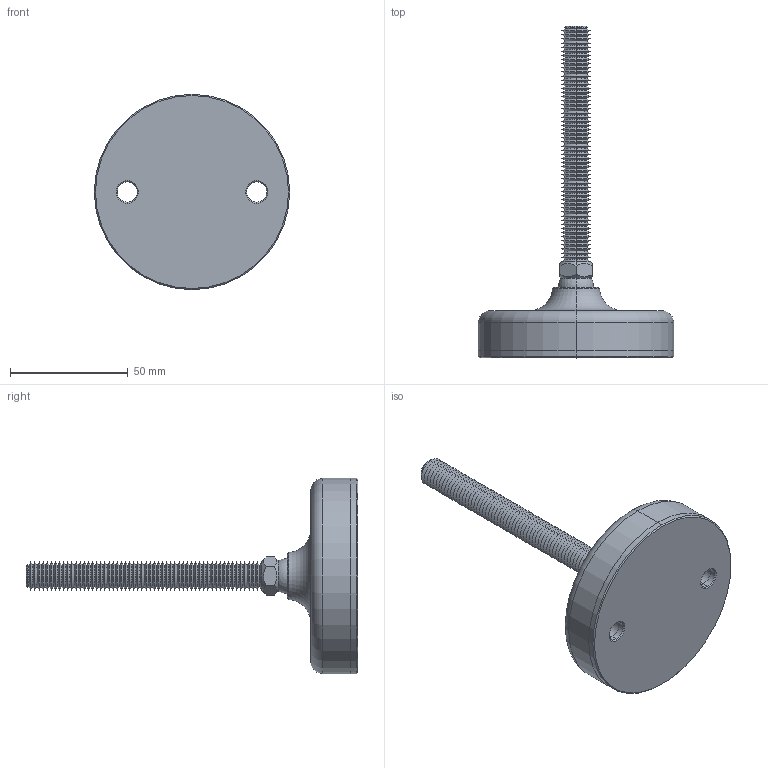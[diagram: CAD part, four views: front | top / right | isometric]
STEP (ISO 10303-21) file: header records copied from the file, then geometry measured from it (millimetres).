
FILE_DESCRIPTION (( 'STEP AP203' ), '1' );
FILE_NAME ('34724.W1202.step', '2019-11-28T22:08:53', ( '' ), ( '' ), 'SwSTEP 2.0', 'SolidWorks 2017', '' );
FILE_SCHEMA (( 'CONFIG_CONTROL_DESIGN' ));
Length unit declared in the file: millimetre
Products named in the file (4): Part1_34724.W1202; Part3_34724.W1202; Part2_34724.W1202; 34724.W1202
Assembly tree (3 placements, depth 2):
  34724.W1202
    Part1_34724.W1202
    Part2_34724.W1202
    Part3_34724.W1202
Bounding box: 83 x 141 x 83 mm (x, y, z)
Volume: 119762.8 mm3; surface area: 34897.1 mm2
Topology: 3 solids, 3 shells, 280 faces, 575 edges, 301 vertices
Faces by surface type: cone 246, plane 14, cylinder 12, sphere 4, torus 4
Entity records: 7658 total; most frequent: DIRECTION 1416, CARTESIAN_POINT 1292, ORIENTED_EDGE 1132, AXIS2_PLACEMENT_3D 576, EDGE_CURVE 566, VERTEX_POINT 296, EDGE_LOOP 292, CIRCLE 290
